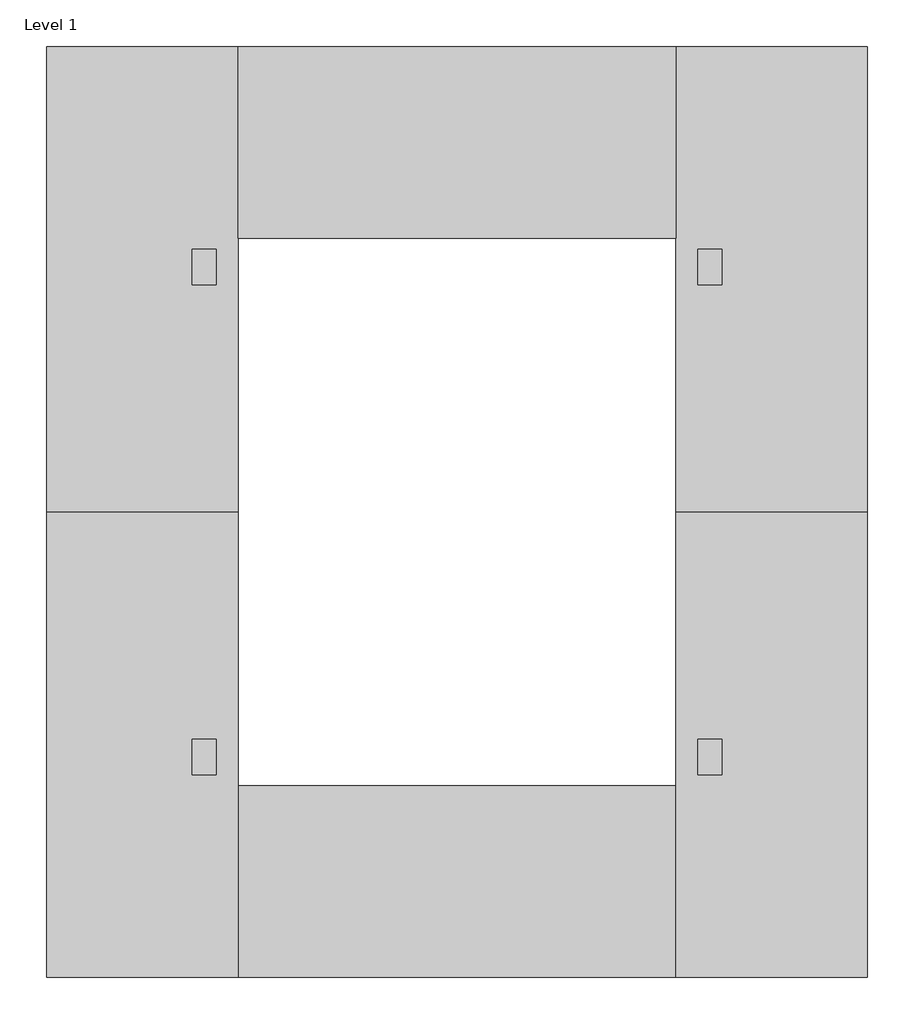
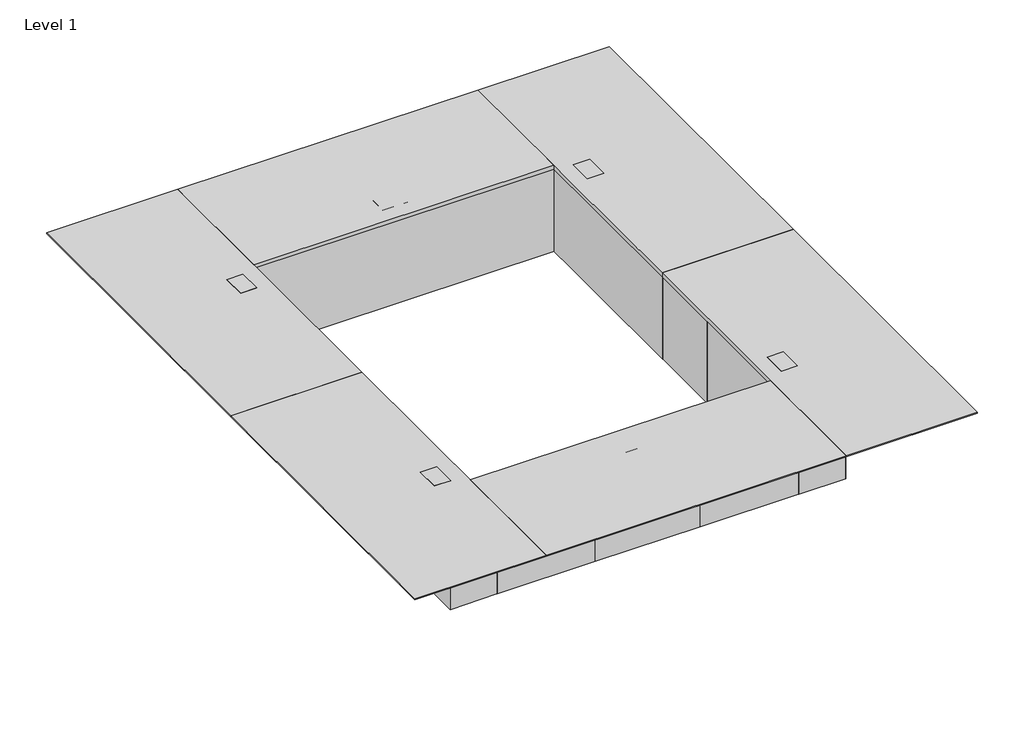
# One storey: 6 proxies.
"""IFC4 building model written with IfcOpenShell, lengths in millimetres."""

from ifc_helpers import new_model, si_unit, origin, place, context, project, spatial, transform, mapped, element, save
from components import generic_models_40ff8c30, generic_models_f300016d, generic_models_2ec93c2f

model = new_model("IFC4")

# Units and contexts
model_context = context("Model", 3, world=origin())
ifc_project = project(units=[si_unit("LENGTHUNIT", "METRE", prefix="MILLI")], contexts=[model_context])

# Site, building, storey
site = spatial("IfcSite", under=ifc_project)
building = spatial("IfcBuilding", under=site)
storey = spatial("IfcBuildingStorey", under=building, Name="Level 1", Elevation=0.0)

# Proxies
placement = place(None, origin())
generic_models_shape = generic_models_40ff8c30(model_context)
element("IfcBuildingElementProxy", 1, Name="VIEWLINE^TABLE 2_LEFT CORNER TOP-ASSEMBLY_1", ObjectType="VIEWLINE^TABLE 2_LEFT CORNER TOP-ASSEMBLY_1", at=placement, inside=storey, context=model_context, shape_type="MappedRepresentation", body=[
    mapped(generic_models_shape, transform((3505.2, -2590.8, 711.2), x_axis=(0.0, -1.0, 0.0), y_axis=(0.0, 0.0, 1.0), z_axis=(-1.0, 0.0, 0.0))),
])
generic_models_2_shape = generic_models_f300016d(model_context)
element("IfcBuildingElementProxy", 2, Name="VIEWLINE^TABLE 2_RIGHT CORNER TOP-ASSEMBLY_1", ObjectType="VIEWLINE^TABLE 2_RIGHT CORNER TOP-ASSEMBLY_1", at=placement, inside=storey, context=model_context, shape_type="MappedRepresentation", body=[
    mapped(generic_models_2_shape, transform((3505.2, -2590.8, 711.2), x_axis=(0.0, -1.0, 0.0), y_axis=(0.0, 0.0, 1.0), z_axis=(-1.0, 0.0, 0.0))),
])
generic_models_3_shape = generic_models_2ec93c2f(model_context)
element("IfcBuildingElementProxy", 3, Name="VIEWLINE^TABLE 2_INTERMEDIATE TOP-ASSEMBLY", ObjectType="VIEWLINE^TABLE 2_INTERMEDIATE TOP-ASSEMBLY", at=placement, inside=storey, context=model_context, shape_type="MappedRepresentation", body=[
    mapped(generic_models_3_shape, transform((1066.8, -2590.8, 711.2), x_axis=(0.0, 1.0, 0.0), y_axis=(0.0, 0.0, 1.0), z_axis=(1.0, 0.0, 0.0))),
])
element("IfcBuildingElementProxy", 4, Name="VIEWLINE^TABLE 2_RIGHT CORNER TOP-ASSEMBLY", ObjectType="VIEWLINE^TABLE 2_RIGHT CORNER TOP-ASSEMBLY", at=placement, inside=storey, context=model_context, shape_type="MappedRepresentation", body=[
    mapped(generic_models_2_shape, transform((1066.8, -2590.8, 711.2), x_axis=(0.0, 1.0, 0.0), y_axis=(0.0, 0.0, 1.0), z_axis=(1.0, 0.0, 0.0))),
])
element("IfcBuildingElementProxy", 5, Name="VIEWLINE^TABLE 2_INTERMEDIATE TOP-ASSEMBLY_1", ObjectType="VIEWLINE^TABLE 2_INTERMEDIATE TOP-ASSEMBLY_1", at=placement, inside=storey, context=model_context, shape_type="MappedRepresentation", body=[
    mapped(generic_models_3_shape, transform((3505.2, -2590.8, 711.2), x_axis=(0.0, -1.0, 0.0), y_axis=(0.0, 0.0, 1.0), z_axis=(-1.0, 0.0, 0.0))),
])
element("IfcBuildingElementProxy", 6, Name="VIEWLINE^TABLE 2_LEFT CORNER TOP-ASSEMBLY", ObjectType="VIEWLINE^TABLE 2_LEFT CORNER TOP-ASSEMBLY", at=placement, inside=storey, context=model_context, shape_type="MappedRepresentation", body=[
    mapped(generic_models_shape, transform((1066.8, -2590.8, 711.2), x_axis=(0.0, 1.0, 0.0), y_axis=(0.0, 0.0, 1.0), z_axis=(1.0, 0.0, 0.0))),
])

save(model, "model.ifc")
